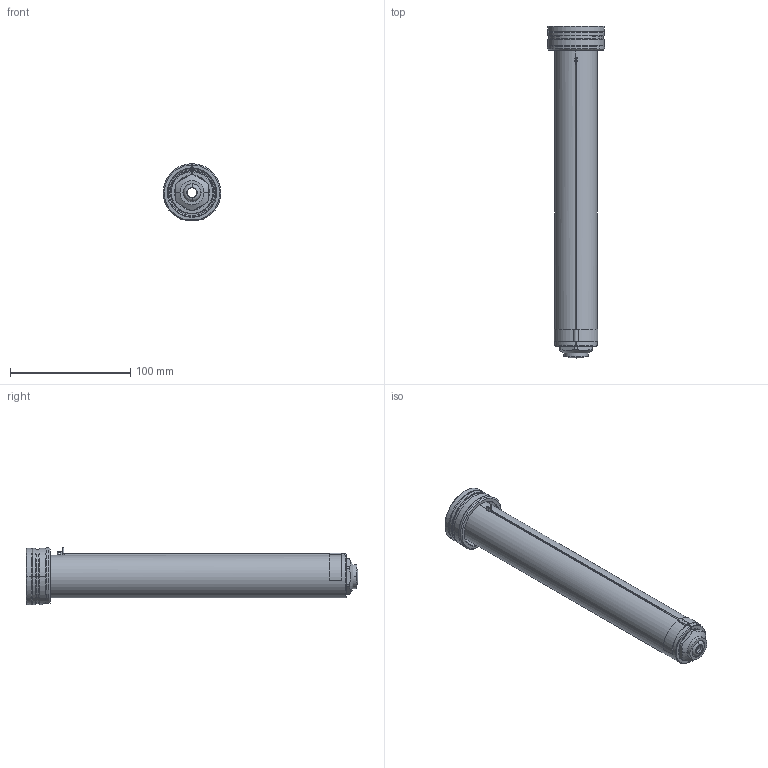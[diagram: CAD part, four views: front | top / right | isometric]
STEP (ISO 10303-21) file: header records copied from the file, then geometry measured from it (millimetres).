
FILE_DESCRIPTION((''),'2;1');
FILE_NAME('EO16_VG-BL_STD_260_SW','2024-02-19T13:19:43',('sundharh'),(''),'CREO PARAMETRIC BY PTC INC, 2023154','CREO PARAMETRIC BY PTC INC, 2023154','');
FILE_SCHEMA(('CONFIG_CONTROL_DESIGN'));
Length unit declared in the file: millimetre
Products named in the file (1): EO16_VG-BL_STD_260_SW
Bounding box: 47.97 x 275.8 x 48 mm (x, y, z)
Volume: 225398.7 mm3; surface area: 53666 mm2
Topology: 1 solids, 1 shells, 192 faces, 463 edges, 279 vertices
Faces by surface type: cylinder 72, plane 46, cone 37, torus 22, bspline 13, sphere 2
Entity records: 6558 total; most frequent: CARTESIAN_POINT 2003, DIRECTION 1020, ORIENTED_EDGE 914, EDGE_CURVE 457, AXIS2_PLACEMENT_3D 426, VERTEX_POINT 279, CIRCLE 247, EDGE_LOOP 208
